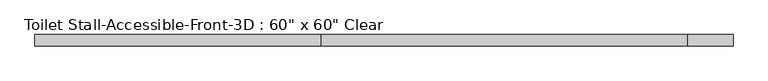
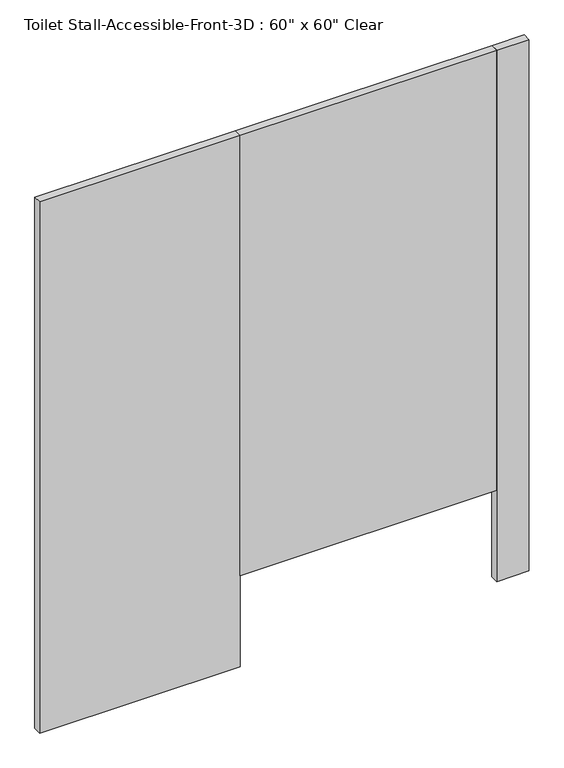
"""IFC4 building model written with IfcOpenShell, lengths in millimetres: proxy geometry."""

from ifc_helpers import new_model, si_unit, frame, origin, origin_with_axes, place, context, project, spatial, polyline, outline, extrude, source, transform, mapped, element, save


def proxy_e5c07f1c(model_context):
    return source(origin(), model_context, "Body", "SweptSolid", [
        extrude(outline(polyline([(1370.1031538, -1627.1875), (557.3031538, -1627.1875), (557.3031538, -1601.7875), (1370.1031538, -1601.7875), (1370.1031538, -1627.1875)])), frame((0.0, 0.0, 304.8), z_axis=(0.0, 0.0, 1.0), x_axis=(1.0, 0.0, 0.0)), (0.0, 0.0, 1.0), 1473.2),
        extrude(outline(polyline([(557.3031538, -1627.1875), (-77.6968462, -1627.1875), (-77.6968462, -1601.7875), (557.3031538, -1601.7875), (557.3031538, -1627.1875)])), origin_with_axes(), (0.0, 0.0, 1.0), 1778.0),
        extrude(outline(polyline([(1471.7031538, -1627.1875), (1370.1031538, -1627.1875), (1370.1031538, -1601.7875), (1471.7031538, -1601.7875), (1471.7031538, -1627.1875)])), origin_with_axes(), (0.0, 0.0, 1.0), 1778.0),
    ])


if __name__ == "__main__":
    model = new_model("IFC4")
    model_context = context("Model", 3, world=origin())
    ifc_project = project(units=[si_unit("LENGTHUNIT", "METRE", prefix="MILLI")], contexts=[model_context])
    site = spatial("IfcSite", under=ifc_project)
    building = spatial("IfcBuilding", under=site)
    placement = place(None, origin())
    proxy_shape = proxy_e5c07f1c(model_context)
    element("IfcBuildingElementProxy", 1, Name="Toilet Stall-Accessible-Front-3D : 60\" x 60\" Clear", ObjectType="Toilet Stall-Accessible-Front-3D : 60\" x 60\" Clear", at=placement, inside=building, context=model_context, shape_type="MappedRepresentation", body=[
        mapped(proxy_shape, transform((0.0, 0.0, 0.0), x_axis=(1.0, 0.0, 0.0), y_axis=(0.0, 1.0, 0.0), z_axis=(0.0, 0.0, 1.0))),
    ])
    save(model, "model.ifc")
